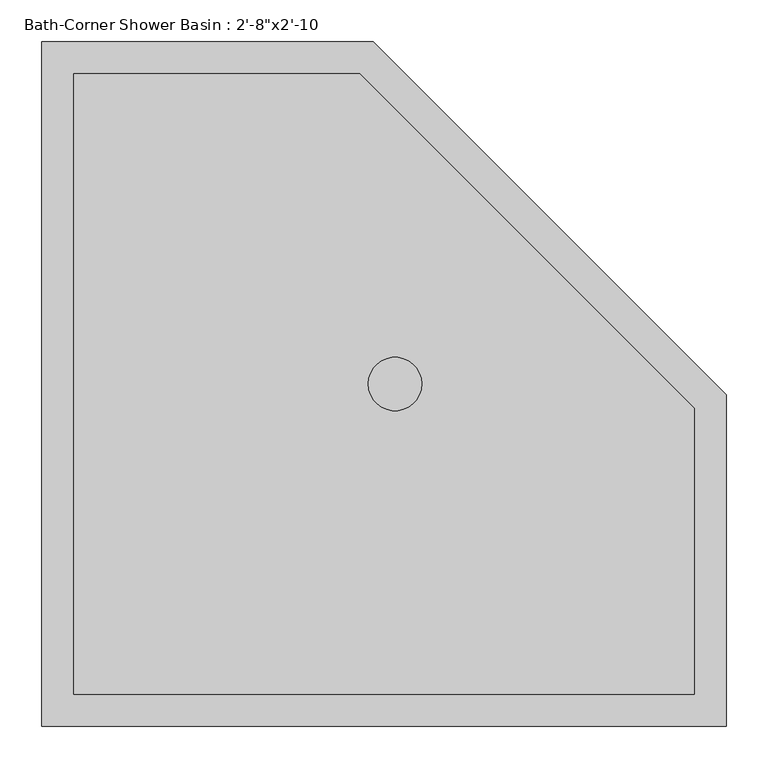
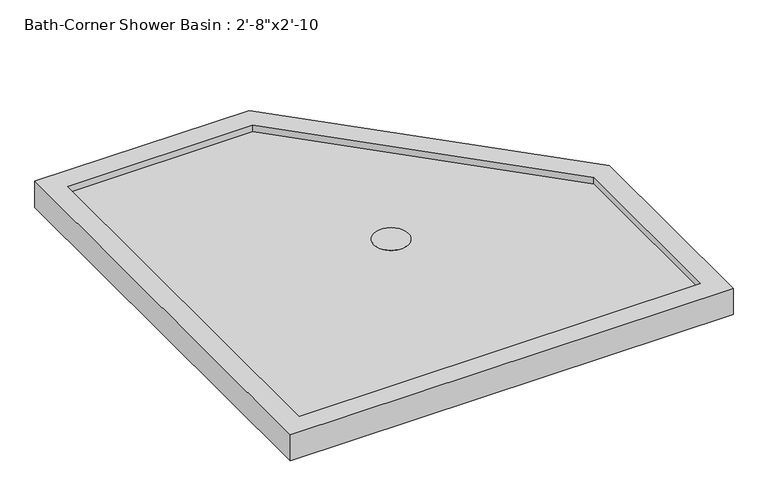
"""IFC4 building model written with IfcOpenShell, lengths in millimetres: flow terminal geometry."""

import ifcopenshell
import ifcopenshell.guid

model = None  # the IFC model being written
_history = None  # IfcOwnerHistory: only IFC2X3 demands one
_inside = {}  # id of a spatial element -> (the spatial element, [elements in it])
_under = {}  # id of a project, library or spatial element -> (it, [spatial elements below it])
_declared = {}  # id of a project -> (the project, [libraries it declares])
_typed = {}  # id of a type object -> (the type object, [elements of that type])
_made_of = {}  # id of a material, layer set ... -> (it, [elements and type objects made of it])


def new_model(schema):
    """Start an empty IFC model of exactly this schema.

    Asked for "IFC4X3", IfcOpenShell would pick the latest addendum, in which some entities
    have other attributes; the version numbers below select the first issue.
    IFC2X3 requires an IfcOwnerHistory on every rooted entity: one is made here for all.
    """
    global model, _history
    if schema == "IFC4X3":
        model = ifcopenshell.file(schema_version=(4, 3, 0, 0))
    else:
        model = ifcopenshell.file(schema=schema)
    _inside.clear()
    _under.clear()
    _declared.clear()
    _typed.clear()
    _made_of.clear()
    _history = None
    if model.schema == "IFC2X3":
        org = make("IfcOrganization", Name="unknown")
        user = make(
            "IfcPersonAndOrganization",
            ThePerson=make("IfcPerson", FamilyName="unknown"),
            TheOrganization=org,
        )
        app = make(
            "IfcApplication",
            ApplicationDeveloper=org,
            Version="unknown",
            ApplicationFullName="unknown",
            ApplicationIdentifier="unknown",
        )
        _history = make(
            "IfcOwnerHistory",
            OwningUser=user,
            OwningApplication=app,
            ChangeAction="ADDED",
            CreationDate=0,
        )
    return model


def make(cls, **values):
    """One entity of the class cls with the attributes given. An attribute that is None is left unset."""
    return model.create_entity(
        cls, **{name: value for name, value in values.items() if value is not None}
    )


def rooted(cls, **values):
    """An entity with a GlobalId (a new one), such as an element, a storey or a relation."""
    return make(cls, GlobalId=ifcopenshell.guid.new(), OwnerHistory=_history, **values)


def si_unit(unit_type, name, prefix=None):
    """IfcSIUnit, for example si_unit("LENGTHUNIT", "METRE", prefix="MILLI")."""
    return make("IfcSIUnit", UnitType=unit_type, Prefix=prefix, Name=name)


def assignment(units):
    """IfcUnitAssignment: the units of a project."""
    return None if units is None else make("IfcUnitAssignment", Units=units)


def point(xyz):
    """IfcCartesianPoint."""
    return None if xyz is None else make("IfcCartesianPoint", Coordinates=xyz)


def direction(xyz):
    """IfcDirection."""
    return None if xyz is None else make("IfcDirection", DirectionRatios=xyz)


def frame(location, z_axis=None, x_axis=None):
    """IfcAxis2Placement3D, a coordinate frame: its origin and axes. An axis left out is left unset."""
    return make(
        "IfcAxis2Placement3D",
        Location=point(location),
        Axis=direction(z_axis),
        RefDirection=direction(x_axis),
    )


def frame_2d(location, x_axis=None):
    """IfcAxis2Placement2D, a coordinate frame in the plane: its origin and x axis."""
    return make(
        "IfcAxis2Placement2D", Location=point(location), RefDirection=direction(x_axis)
    )


def origin():
    """The frame at (0, 0, 0) with its axes left unset."""
    return frame((0.0, 0.0, 0.0))


def origin_with_axes():
    """The frame at (0, 0, 0) with the z axis (0, 0, 1) and the x axis (1, 0, 0) written out."""
    return frame((0.0, 0.0, 0.0), z_axis=(0.0, 0.0, 1.0), x_axis=(1.0, 0.0, 0.0))


def place(relative_to, where):
    """IfcLocalPlacement: puts the frame where relative to a parent placement (None: the world)."""
    return make(
        "IfcLocalPlacement", PlacementRelTo=relative_to, RelativePlacement=where
    )


def context(
    kind, dimensions, precision=None, world=None, true_north=None, identifier=None
):
    """IfcGeometricRepresentationContext, for example the 3D "Model" context."""
    return make(
        "IfcGeometricRepresentationContext",
        ContextIdentifier=identifier,
        ContextType=kind,
        CoordinateSpaceDimension=dimensions,
        Precision=precision,
        WorldCoordinateSystem=world,
        TrueNorth=true_north,
    )


def project(units=None, contexts=None):
    """IfcProject with its units and contexts."""
    return rooted(
        "IfcProject",
        Name="project",
        RepresentationContexts=contexts,
        UnitsInContext=assignment(units),
    )


def spatial(cls, under=None, at=None, **own):
    """A site, building, storey or space (cls), placed at a placement, below another one or the project."""
    s = rooted(cls, ObjectPlacement=at, **own)
    if under is not None:
        _under.setdefault(under.id(), (under, []))[1].append(s)
    return s


def circle_curve(where, radius):
    """IfcCircle in the frame where."""
    return make("IfcCircle", Position=where, Radius=radius)


def trimmed(basis, trim1, trim2, sense, master):
    """IfcTrimmedCurve: the piece of a basis curve between two trims."""
    return make(
        "IfcTrimmedCurve",
        BasisCurve=basis,
        Trim1=trim1,
        Trim2=trim2,
        SenseAgreement=sense,
        MasterRepresentation=master,
    )


def segment(curve, same_sense, transition):
    """IfcCompositeCurveSegment."""
    return make(
        "IfcCompositeCurveSegment",
        Transition=transition,
        SameSense=same_sense,
        ParentCurve=curve,
    )


def composite_curve(segments, self_intersect=None):
    """IfcCompositeCurve: segments joined end to end."""
    return make("IfcCompositeCurve", Segments=segments, SelfIntersect=self_intersect)


def outline(outer, holes=None, kind="AREA"):
    """IfcArbitraryClosedProfileDef: a profile drawn as a closed curve; with holes, ...WithVoids."""
    if holes is None:
        return make("IfcArbitraryClosedProfileDef", ProfileType=kind, OuterCurve=outer)
    return make(
        "IfcArbitraryProfileDefWithVoids",
        ProfileType=kind,
        OuterCurve=outer,
        InnerCurves=holes,
    )


def extrude(swept, where, along, depth):
    """IfcExtrudedAreaSolid: the profile swept, set in the frame where, extruded along a direction by depth."""
    return make(
        "IfcExtrudedAreaSolid",
        SweptArea=swept,
        Position=where,
        ExtrudedDirection=direction(along),
        Depth=depth,
    )


def faces_of(points, faces, orient=None, outer=None):
    """IfcFace entities. A face is a list of loops; a loop is a list of indices into points, from 0.

    orient and outer hold one flag for each loop. By default every Orientation is true, the
    first loop of a face is its IfcFaceOuterBound and the others are IfcFaceBound.
    """
    made = []
    for i, loops in enumerate(faces):
        bounds = []
        for j, loop in enumerate(loops):
            is_outer = j == 0 if outer is None else outer[i][j]
            bounds.append(
                make(
                    "IfcFaceOuterBound" if is_outer else "IfcFaceBound",
                    Bound=make("IfcPolyLoop", Polygon=[points[k] for k in loop]),
                    Orientation=True if orient is None else orient[i][j],
                )
            )
        made.append(make("IfcFace", Bounds=bounds))
    return made


def faceted_brep(points, faces, orient=None, outer=None, voids=None):
    """IfcFacetedBrep: a solid bounded by flat faces; with voids (closed shells), ...WithVoids."""
    shared = [point(p) for p in points]
    hull = make("IfcClosedShell", CfsFaces=faces_of(shared, faces, orient, outer))
    if voids is None:
        return make("IfcFacetedBrep", Outer=hull)
    return make(
        "IfcFacetedBrepWithVoids",
        Outer=hull,
        Voids=[
            make(cls, CfsFaces=faces_of(shared, fs, o, b)) for cls, fs, o, b in voids
        ],
    )


def shape(context_of_items, identifier, shape_type, items):
    """IfcShapeRepresentation: the items that make up one representation, for example the "Body"."""
    return make(
        "IfcShapeRepresentation",
        ContextOfItems=context_of_items,
        RepresentationIdentifier=identifier,
        RepresentationType=shape_type,
        Items=items,
    )


def source(mapping_origin, context_of_items, identifier, shape_type, items):
    """IfcRepresentationMap: a shape defined once, which mapped items show again and again."""
    return make(
        "IfcRepresentationMap",
        MappingOrigin=mapping_origin,
        MappedRepresentation=shape(context_of_items, identifier, shape_type, items),
    )


def transform(
    local_origin,
    x_axis=None,
    y_axis=None,
    z_axis=None,
    scale=None,
    scale2=None,
    scale3=None,
    uniform=True,
):
    """IfcCartesianTransformationOperator3D, or its non-uniform kind. x_axis, y_axis, z_axis: its Axis1, 2, 3."""
    if uniform:
        return make(
            "IfcCartesianTransformationOperator3D",
            Axis1=direction(x_axis),
            Axis2=direction(y_axis),
            LocalOrigin=point(local_origin),
            Scale=scale,
            Axis3=direction(z_axis),
        )
    return make(
        "IfcCartesianTransformationOperator3DnonUniform",
        Axis1=direction(x_axis),
        Axis2=direction(y_axis),
        LocalOrigin=point(local_origin),
        Scale=scale,
        Axis3=direction(z_axis),
        Scale2=scale2,
        Scale3=scale3,
    )


def mapped(mapping_source, mapping_target):
    """IfcMappedItem: shows the shape of a source again, moved by a transform."""
    return make(
        "IfcMappedItem", MappingSource=mapping_source, MappingTarget=mapping_target
    )


def made_of(thing, what):
    """Note that an element or type object is made of a material, layer set ...; save() writes the relation."""
    if what is not None:
        _made_of.setdefault(what.id(), (what, []))[1].append(thing)
    return thing


def element(
    cls,
    number,
    at=None,
    inside=None,
    cuts=None,
    type_object=None,
    material=None,
    context=None,
    identifier="Body",
    shape_type=None,
    held_by="IfcProductDefinitionShape",
    body=None,
    shapes=None,
    **own,
):
    """One element of the class cls, such as IfcWall. Its Tag is "e" and its number.

    at: its placement. inside: the storey or other place that contains it. cuts: it is an
    opening in that element (IfcRelVoidsElement). A single representation is given by context,
    identifier, shape_type and body (its items); several are given by shapes. held_by: the class
    of the entity that holds the representations. save() writes the other relations.
    """
    e = rooted(cls, Tag="e%d" % number, ObjectPlacement=at, **own)
    if body is not None:
        shapes = [shape(context, identifier, shape_type, body)]
    if shapes is not None:
        e.Representation = make(held_by, Representations=shapes)
    if inside is not None:
        _inside.setdefault(inside.id(), (inside, []))[1].append(e)
    if cuts is not None:
        rooted(
            "IfcRelVoidsElement", RelatingBuildingElement=cuts, RelatedOpeningElement=e
        )
    if type_object is not None:
        _typed.setdefault(type_object.id(), (type_object, []))[1].append(e)
    return made_of(e, material)


def aggregate(whole, parts):
    """IfcRelAggregates: a whole, such as a stair, and the parts it consists of."""
    return rooted("IfcRelAggregates", RelatingObject=whole, RelatedObjects=parts)


def save(model, path):
    """Write the relations noted so far, then the file.

    IfcRelAggregates (storeys below a building ...), IfcRelContainedInSpatialStructure (elements
    in a storey), IfcRelDefinesByType, IfcRelAssociatesMaterial and IfcRelDeclares: one each for
    every whole, place, type object, material and project.
    """
    for whole, parts in _under.values():
        aggregate(whole, parts)
    for where, things in _inside.values():
        rooted(
            "IfcRelContainedInSpatialStructure",
            RelatedElements=things,
            RelatingStructure=where,
        )
    for kind, things in _typed.values():
        rooted("IfcRelDefinesByType", RelatedObjects=things, RelatingType=kind)
    for what, things in _made_of.values():
        rooted("IfcRelAssociatesMaterial", RelatedObjects=things, RelatingMaterial=what)
    for by, libraries in _declared.values():
        rooted("IfcRelDeclares", RelatingContext=by, RelatedDefinitions=libraries)
    model.write(path)


def flow_terminal_49109885(model_context):
    return source(origin(), model_context, "Body", "SolidModel", [
        extrude(outline(composite_curve([segment(trimmed(circle_curve(frame_2d((432.5, 407.5)), 31.75), [point((400.75, 407.5))], [point((464.25, 407.5))], False, "CARTESIAN"), True, "CONTINUOUS"), segment(trimmed(circle_curve(frame_2d((432.5, 407.5)), 31.75), [point((464.25, 407.5))], [point((400.75, 407.5))], False, "CARTESIAN"), True, "CONTINUOUS")], self_intersect=False)), origin_with_axes(), (0.0, 0.0, 1.0), 38.1),
        faceted_brep([(11.9, 0.0, 50.8), (826.9, 0.0, 50.8), (826.9, 394.5, 50.8), (406.4, 815.0, 50.8), (11.9, 815.0, 50.8), (788.8, 38.1, 50.8), (50.0, 38.1, 50.8), (50.0, 776.9, 50.8), (390.6184633, 776.9, 50.8), (788.8, 378.7184633, 50.8), (11.9, 0.0, 0.0), (11.9, 815.0, 0.0), (406.4, 815.0, 0.0), (826.9, 394.5, 0.0), (826.9, 0.0, 0.0), (50.0, 38.1, 38.1), (788.8, 38.1, 38.1), (788.8, 378.7184633, 38.1), (390.6184633, 776.9, 38.1), (50.0, 776.9, 38.1)], [[[0, 1, 2, 3, 4], [5, 6, 7, 8, 9]], [[10, 11, 12, 13, 14]], [[1, 0, 10, 14]], [[2, 1, 14, 13]], [[3, 2, 13, 12]], [[4, 3, 12, 11]], [[0, 4, 11, 10]], [[15, 16, 17, 18, 19]], [[16, 15, 6, 5]], [[17, 16, 5, 9]], [[18, 17, 9, 8]], [[19, 18, 8, 7]], [[15, 19, 7, 6]]]),
    ])


if __name__ == "__main__":
    model = new_model("IFC4")
    model_context = context("Model", 3, world=origin())
    ifc_project = project(units=[si_unit("LENGTHUNIT", "METRE", prefix="MILLI")], contexts=[model_context])
    site = spatial("IfcSite", under=ifc_project)
    building = spatial("IfcBuilding", under=site)
    placement = place(None, origin())
    flow_terminal_shape = flow_terminal_49109885(model_context)
    element("IfcFlowTerminal", 1, ObjectType="Bath-Corner Shower Basin : 2'-8\"x2'-10", at=placement, inside=building, context=model_context, shape_type="MappedRepresentation", body=[
        mapped(flow_terminal_shape, transform((0.0, 0.0, 0.0), x_axis=(1.0, 0.0, 0.0), y_axis=(0.0, 1.0, 0.0), z_axis=(0.0, 0.0, 1.0))),
    ])
    save(model, "model.ifc")
